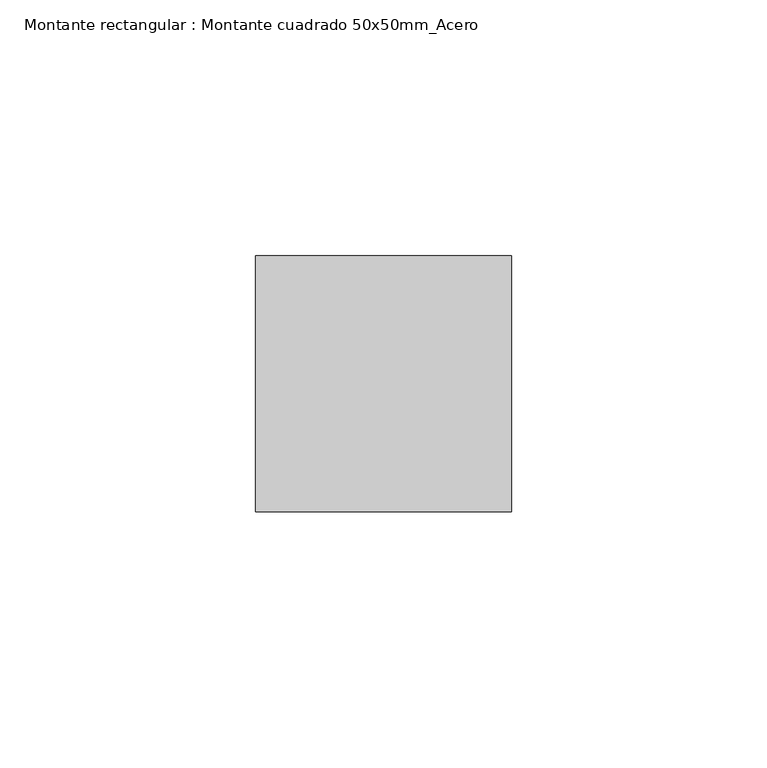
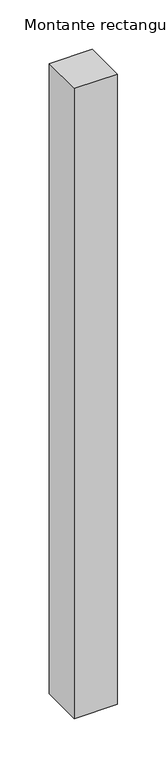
"""IFC4 building model written with IfcOpenShell, lengths in millimetres: member geometry, Montante rectangular : Montante cuadrado 50x50mm_Acero."""

from ifc_helpers import new_model, si_unit, frame, origin, place, context, project, spatial, polyline, outline, extrude, source, transform, mapped, element, save


def montante_rectangular_montante_cuadrado_50x50mm_acero_eaf32c76(model_context):
    return source(origin(), model_context, "Body", "SweptSolid", [
        extrude(outline(polyline([(-50.0, 0.0), (0.0, 0.0), (0.0, -50.0), (-50.0, -50.0), (-50.0, 0.0)])), frame((0.0, 0.0, -777.7385934), z_axis=(0.0, 0.0, 1.0), x_axis=(1.0, 0.0, 0.0)), (0.0, 0.0, 1.0), 777.7385934),
    ])


if __name__ == "__main__":
    model = new_model("IFC4")
    model_context = context("Model", 3, world=origin())
    ifc_project = project(units=[si_unit("LENGTHUNIT", "METRE", prefix="MILLI")], contexts=[model_context])
    site = spatial("IfcSite", under=ifc_project)
    building = spatial("IfcBuilding", under=site)
    placement = place(None, origin())
    montante_rectangular_montante_cuadrado_50x50mm_acero_shape = montante_rectangular_montante_cuadrado_50x50mm_acero_eaf32c76(model_context)
    element("IfcMember", 1, ObjectType="Montante rectangular : Montante cuadrado 50x50mm_Acero", at=placement, inside=building, context=model_context, shape_type="MappedRepresentation", body=[
        mapped(montante_rectangular_montante_cuadrado_50x50mm_acero_shape, transform((0.0, 0.0, 0.0), x_axis=(1.0, 0.0, 0.0), y_axis=(0.0, 1.0, 0.0), z_axis=(0.0, 0.0, 1.0))),
    ])
    save(model, "model.ifc")
